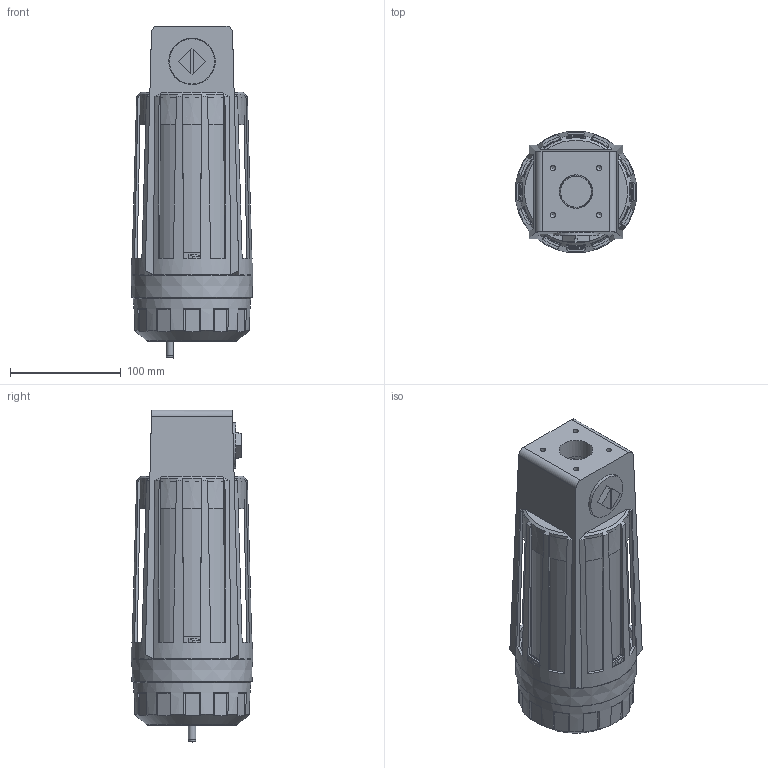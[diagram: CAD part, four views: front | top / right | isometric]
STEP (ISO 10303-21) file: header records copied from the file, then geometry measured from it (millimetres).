
FILE_DESCRIPTION((''),'2;1');
FILE_NAME('K:\ZEICHNG\Kunden Modelle\STEP Dateien\Sondergeräte\FSD.55.stp','2013-10-15T08:36:01',('DDruske'),(''),'Autodesk Inventor 2013','Autodesk Inventor 2013','');
FILE_SCHEMA(('AUTOMOTIVE_DESIGN { 1 0 10303 214 1 1 1 1 }'));
Length unit declared in the file: millimetre
Products named in the file (1): 10014557_Shrinkwrap_1
Bounding box: 110 x 110 x 300.09 mm (x, y, z)
Volume: 1238274.2 mm3; surface area: 251226.7 mm2
Topology: 1 solids, 2 shells, 338 faces, 945 edges, 610 vertices
Faces by surface type: plane 155, cylinder 90, cone 52, sphere 24, torus 16, bspline 1
Full cylindrical faces by diameter (mm): 4 x1, 4.917 x4, 6.571 x1, 30.291 x2, 41 x1, 42 x1, 43 x1, 80 x1, 82 x2
Entity records: 11659 total; most frequent: CARTESIAN_POINT 3237, ORIENTED_EDGE 1780, DIRECTION 1583, EDGE_CURVE 890, AXIS2_PLACEMENT_3D 664, VERTEX_POINT 594, EDGE_LOOP 408, FACE_OUTER_BOUND 337
